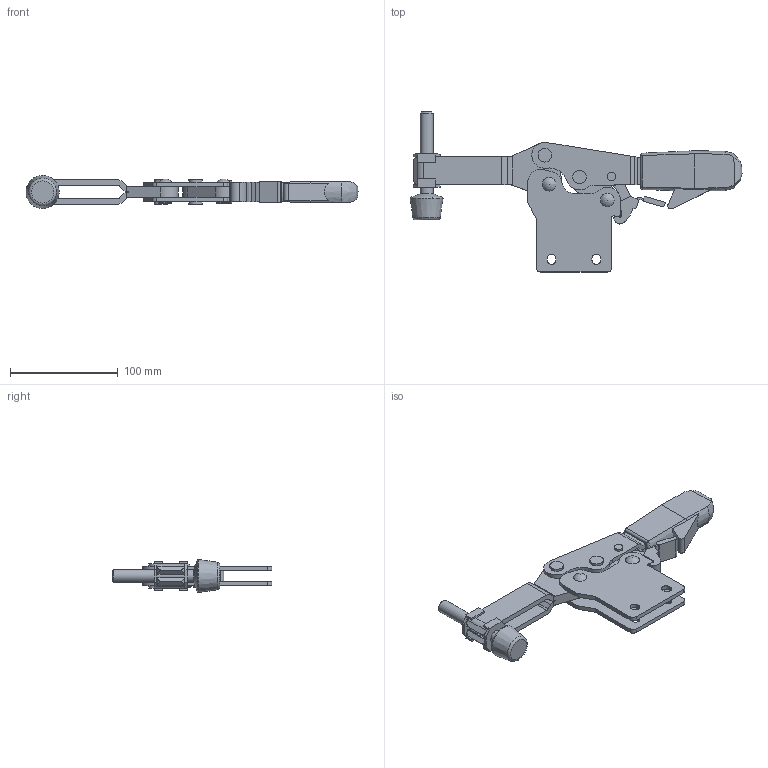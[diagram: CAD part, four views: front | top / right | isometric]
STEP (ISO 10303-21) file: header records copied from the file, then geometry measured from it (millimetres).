
FILE_DESCRIPTION( ( 'STEP AP203' ), '1' );
FILE_NAME( 'C:/Temp/Ganter_Step_05_03_2020/data/2_4/gn_820_4/gn_820_4_st/Toggle clamp GN 820.4-455-NLC (closed).stp', '2020-03-13T05:53:32', ( 'License CC BY-ND 4.0' ), ( 'CADENAS' ), ' ', 'PARTsolutions', ' ' );
FILE_SCHEMA( ( 'CONFIG_CONTROL_DESIGN' ) );
Length unit declared in the file: millimetre
Products named in the file (8): Toggle clamp GN 820.4-455-NLC (closed); _Toggle clamp GN 820.4-455-NLC-1; _Toggle clamp GN 820.4-455-NLC (1)-2; _Toggle clamp GN 820.4-455-NLC (1)-3; _Toggle clamp GN 820.4-455-NLC (1)-4; _Toggle clamp GN 820.4-455-NLC-5; _Toggle clamp GN 820.4-455-NLC-7; _Clamping bolt GN 708.1-M12-100-A-ST PLC
Assembly tree (8 placements, depth 2):
  Toggle clamp GN 820.4-455-NLC (closed)
    _Toggle clamp GN 820.4-455-NLC-1
    _Toggle clamp GN 820.4-455-NLC (1)-2
    _Toggle clamp GN 820.4-455-NLC (1)-3
    _Toggle clamp GN 820.4-455-NLC (1)-4
    _Toggle clamp GN 820.4-455-NLC-5
    _Toggle clamp GN 820.4-455-NLC-7  x2
    _Clamping bolt GN 708.1-M12-100-A-ST PLC
Bounding box: 308.14 x 148.5 x 30.78 mm (x, y, z)
Volume: 226695.9 mm3; surface area: 88054.9 mm2
Topology: 8 solids, 8 shells, 270 faces, 724 edges, 482 vertices
Faces by surface type: plane 155, cylinder 98, cone 7, torus 6, bspline 4
Full cylindrical faces by diameter (mm): 8 x9, 12 x1, 12.5 x10, 13.2 x2
Entity records: 8209 total; most frequent: CARTESIAN_POINT 1660, DIRECTION 1330, ORIENTED_EDGE 1260, EDGE_CURVE 630, AXIS2_PLACEMENT_3D 476, VERTEX_POINT 438, LINE 378, VECTOR 378
